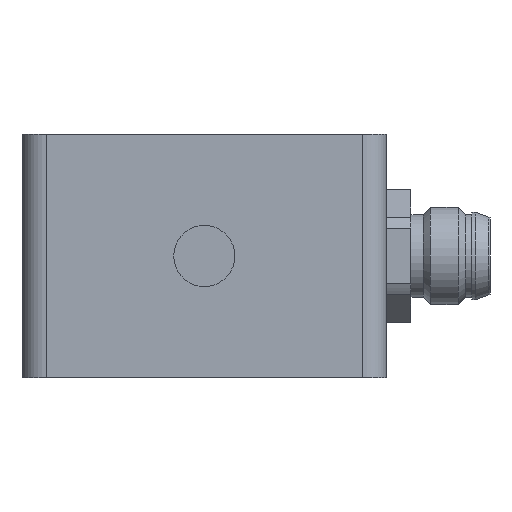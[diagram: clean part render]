
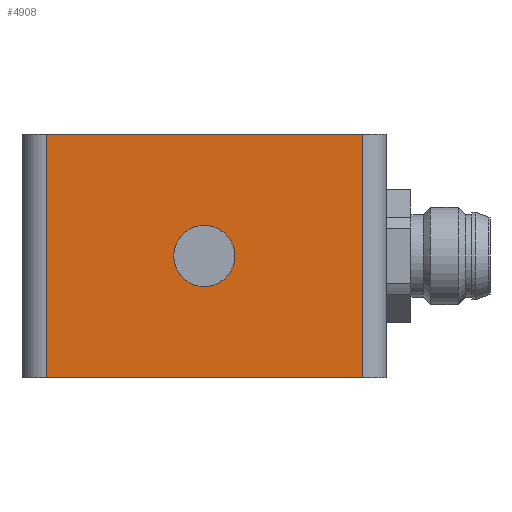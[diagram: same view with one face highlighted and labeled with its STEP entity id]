
A CAD part, left-side view. The second image highlights one B-rep face of the part: STEP entity #4908.
In plain terms, the highlighted planar face has unit normal (-1, 0, 0).
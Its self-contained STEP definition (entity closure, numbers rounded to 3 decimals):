
#93=FACE_BOUND('',#1685,.T.);
#473=LINE('',#8189,#929);
#496=LINE('',#8247,#952);
#497=LINE('',#8250,#953);
#498=LINE('',#8251,#954);
#929=VECTOR('',#6746,10.);
#952=VECTOR('',#6805,10.);
#953=VECTOR('',#6808,10.);
#954=VECTOR('',#6809,10.);
#1339=FACE_OUTER_BOUND('',#1684,.T.);
#1684=EDGE_LOOP('',(#4257,#4258,#4259,#4260));
#1685=EDGE_LOOP('',(#4261));
#1929=CIRCLE('',#5423,2.518);
#2323=VERTEX_POINT('',#8186);
#2324=VERTEX_POINT('',#8188);
#2337=VERTEX_POINT('',#8230);
#2341=VERTEX_POINT('',#8245);
#2342=VERTEX_POINT('',#8249);
#2960=EDGE_CURVE('',#2323,#2324,#473,.T.);
#2981=EDGE_CURVE('',#2337,#2337,#1929,.T.);
#2989=EDGE_CURVE('',#2341,#2324,#496,.T.);
#2990=EDGE_CURVE('',#2342,#2341,#497,.T.);
#2991=EDGE_CURVE('',#2342,#2323,#498,.T.);
#4257=ORIENTED_EDGE('',*,*,#2990,.T.);
#4258=ORIENTED_EDGE('',*,*,#2989,.T.);
#4259=ORIENTED_EDGE('',*,*,#2960,.F.);
#4260=ORIENTED_EDGE('',*,*,#2991,.F.);
#4261=ORIENTED_EDGE('',*,*,#2981,.T.);
#4621=PLANE('',#5429);
#4908=ADVANCED_FACE('',(#1339,#93),#4621,.T.);
#5423=AXIS2_PLACEMENT_3D('',#8231,#6787,#6788);
#5429=AXIS2_PLACEMENT_3D('',#8248,#6806,#6807);
#6746=DIRECTION('',(0.,-1.,0.));
#6787=DIRECTION('center_axis',(1.,0.,0.));
#6788=DIRECTION('ref_axis',(0.,0.,-1.));
#6805=DIRECTION('',(0.,0.,1.));
#6806=DIRECTION('center_axis',(-1.,0.,0.));
#6807=DIRECTION('ref_axis',(0.,-1.,0.));
#6808=DIRECTION('',(0.,-1.,0.));
#6809=DIRECTION('',(0.,0.,1.));
#8186=CARTESIAN_POINT('',(-125.001,13.,5.));
#8188=CARTESIAN_POINT('',(-125.001,-13.,5.));
#8189=CARTESIAN_POINT('',(-125.001,13.,5.));
#8230=CARTESIAN_POINT('',(-125.001,0.,-2.482));
#8231=CARTESIAN_POINT('Origin',(-125.001,0.,-5.));
#8245=CARTESIAN_POINT('',(-125.001,-13.,-15.));
#8247=CARTESIAN_POINT('',(-125.001,-13.,-15.));
#8248=CARTESIAN_POINT('Origin',(-125.001,13.,-15.));
#8249=CARTESIAN_POINT('',(-125.001,13.,-15.));
#8250=CARTESIAN_POINT('',(-125.001,13.,-15.));
#8251=CARTESIAN_POINT('',(-125.001,13.,-15.));
